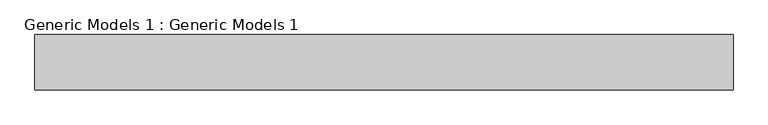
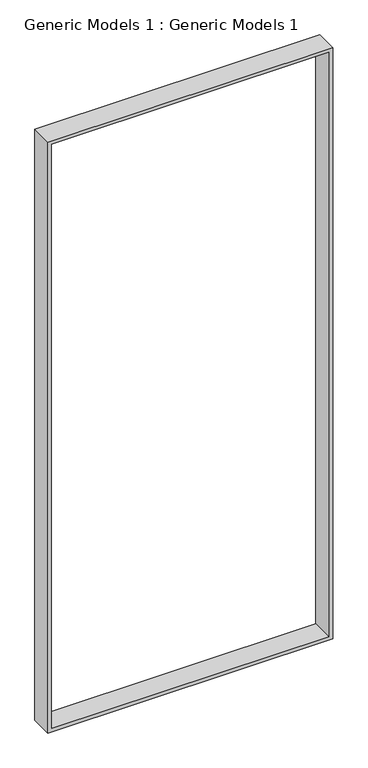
"""IFC4 building model written with IfcOpenShell, lengths in millimetres: proxy geometry, Generic Models 1 : Generic Models 1."""

from ifc_helpers import new_model, si_unit, frame, origin, place, context, project, spatial, polyline, outline, extrude, source, transform, mapped, element, save


def generic_models_1_generic_models_1_95cf7ee4(model_context):
    return source(origin(), model_context, "Body", "SweptSolid", [
        extrude(outline(polyline([(-38.1, -1344.7064955), (-38.1, 1627.0935045), (6483.35, 1627.0935045), (6483.35, -1344.7064955), (-38.1, -1344.7064955)]), holes=[polyline([(6445.25, 1588.9935045), (0.0, 1588.9935045), (0.0, -1306.6064955), (6445.25, -1306.6064955), (6445.25, 1588.9935045)])]), frame((0.0, 2474.0364771, 0.0), z_axis=(0.0, 1.0, 0.0), x_axis=(0.0, 0.0, 1.0)), (0.0, 0.0, 1.0), 234.95),
    ])


if __name__ == "__main__":
    model = new_model("IFC4")
    model_context = context("Model", 3, world=origin())
    ifc_project = project(units=[si_unit("LENGTHUNIT", "METRE", prefix="MILLI")], contexts=[model_context])
    site = spatial("IfcSite", under=ifc_project)
    building = spatial("IfcBuilding", under=site)
    placement = place(None, origin())
    generic_models_1_generic_models_1_shape = generic_models_1_generic_models_1_95cf7ee4(model_context)
    element("IfcBuildingElementProxy", 1, Name="Generic Models 1 : Generic Models 1", ObjectType="Generic Models 1 : Generic Models 1", at=placement, inside=building, context=model_context, shape_type="MappedRepresentation", body=[
        mapped(generic_models_1_generic_models_1_shape, transform((0.0, 0.0, 0.0), x_axis=(1.0, 0.0, 0.0), y_axis=(0.0, 1.0, 0.0), z_axis=(0.0, 0.0, 1.0))),
    ])
    save(model, "model.ifc")
